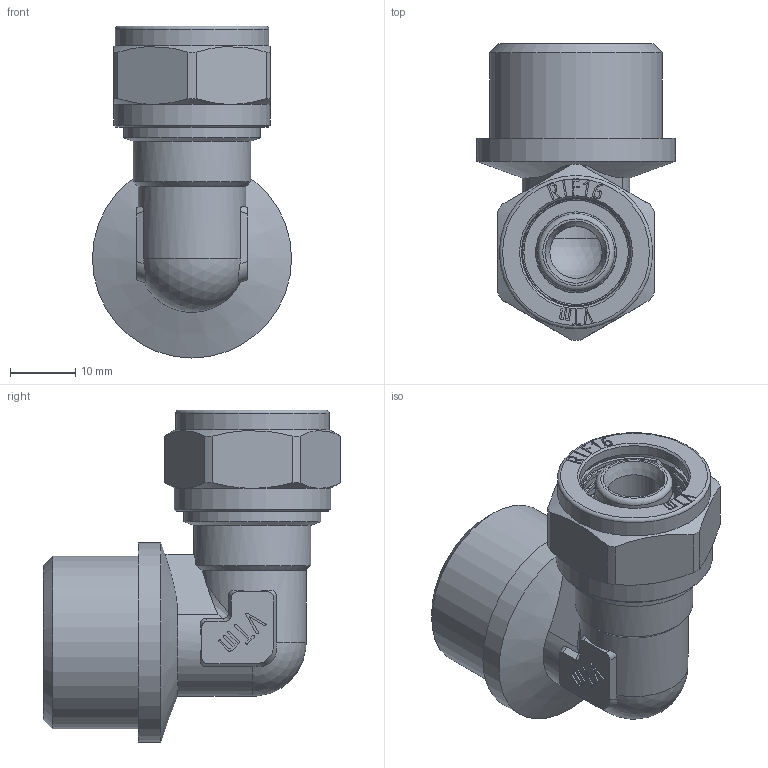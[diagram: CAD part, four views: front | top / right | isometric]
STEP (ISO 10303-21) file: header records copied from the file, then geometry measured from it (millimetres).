
FILE_DESCRIPTION(('STEP AP203'), '1');
FILE_NAME('VTm.353.N.001605', '', ('UNSPECIFIED'), ('UNSPECIFIED'), 'C3D Converter', 'C3D Toolkit', '');
FILE_SCHEMA(('CONFIG_CONTROL_DESIGN'));
Length unit declared in the file: millimetre
Products named in the file (1): ВР.302635.108.000 СБ
Bounding box: 30.5 x 45.5 x 50.86 mm (x, y, z)
Volume: 15660 mm3; surface area: 11349.4 mm2
Topology: 2 solids, 2 shells, 443 faces, 1209 edges, 796 vertices
Faces by surface type: extrusion 189, plane 153, cylinder 47, torus 27, cone 23, bspline 2, sphere 2
Full cylindrical faces by diameter (mm): 8 x1, 11.8 x4, 12.4 x1, 12.5 x1, 16.2 x1, 16.7 x1, 18 x1, 18.632 x1, 20 x1, 20.955 x1, 23.5 x1, 24 x1, 26.441 x1, 30.5 x1
Entity records: 16077 total; most frequent: CARTESIAN_POINT 5940, ORIENTED_EDGE 2330, DIRECTION 1467, EDGE_CURVE 1165, VERTEX_POINT 795, VECTOR 733, B_SPLINE_CURVE_WITH_KNOTS 656, LINE 544
